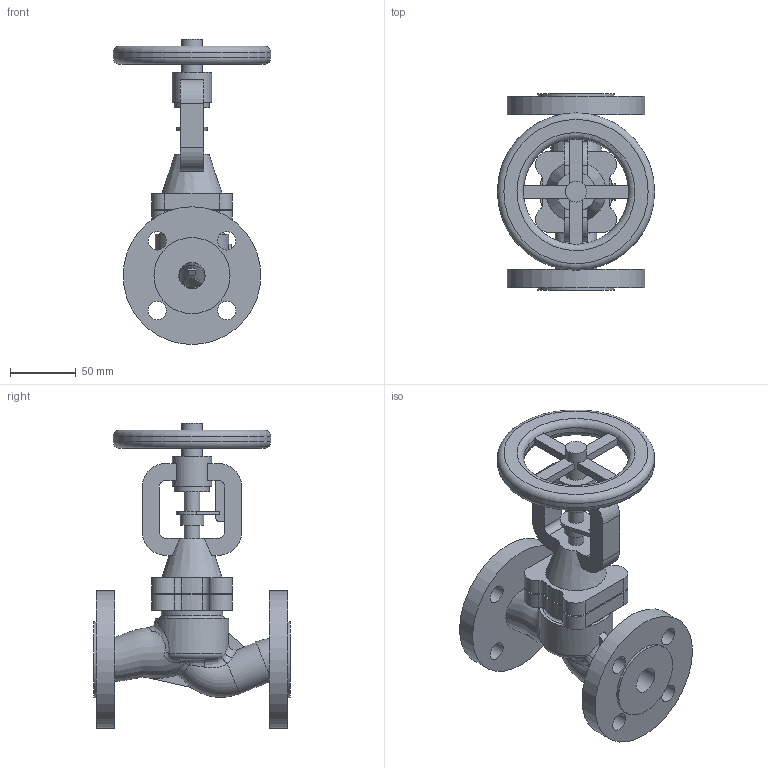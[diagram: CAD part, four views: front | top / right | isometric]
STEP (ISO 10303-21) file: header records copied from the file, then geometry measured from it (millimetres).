
FILE_DESCRIPTION(('STEP AP203'), '1');
FILE_NAME('孰囡囗 玎镱痦 BV1F DN20', '', ('UNSPECIFIED'), ('UNSPECIFIED'), 'ASCON STEP Converter 1.6', 'ASCON Math Kernel', '');
FILE_SCHEMA(('CONFIG_CONTROL_DESIGN'));
Length unit declared in the file: millimetre
Bounding box: 120 x 150 x 232.5 mm (x, y, z)
Volume: 643054.2 mm3; surface area: 129859.7 mm2
Topology: 1 solids, 2 shells, 201 faces, 552 edges, 371 vertices
Faces by surface type: plane 96, cylinder 69, bspline 22, torus 13, cone 1
Full cylindrical faces by diameter (mm): 12 x2, 14 x8, 16 x1, 18 x1, 20 x3, 26 x1, 30 x1, 32 x1, 43 x1, 47 x1, 56 x1, 58 x2, 105 x2, 120 x1
Entity records: 43855 total; most frequent: CARTESIAN_POINT 37349, ORIENTED_EDGE 1010, DIRECTION 941, EDGE_CURVE 505, AXIS2_PLACEMENT_3D 376, VERTEX_POINT 363, EDGE_LOOP 284, FACE_BOUND 247
